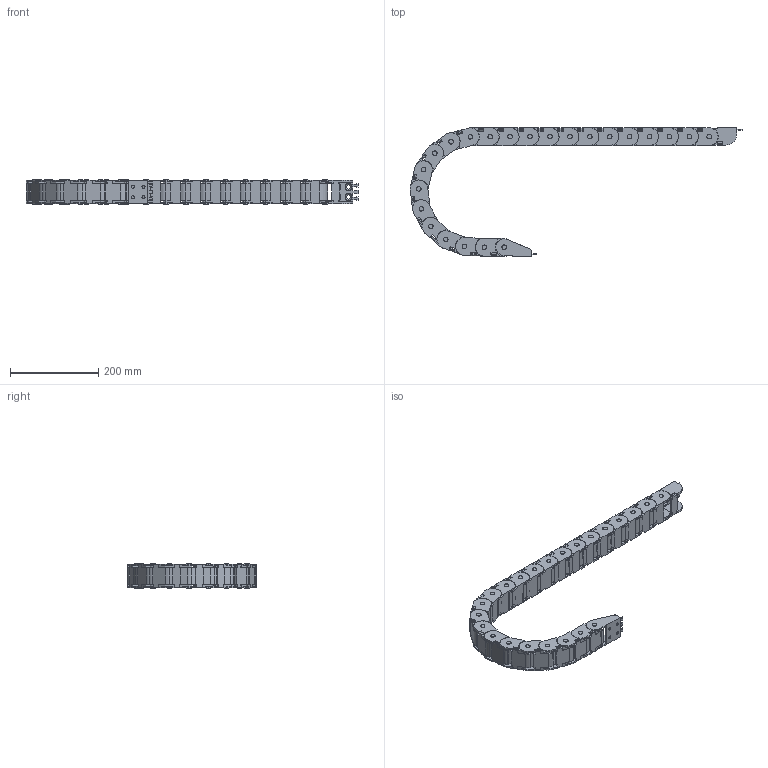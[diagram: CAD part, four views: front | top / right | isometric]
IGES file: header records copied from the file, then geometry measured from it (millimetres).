
Global section: file name: No Iges File Name specified; native system: Autodesk Inventor 2012; preprocessor: AutoDesk Inventor Iges Exporter R2012; author: cho; date: 20151023.003022; units: millimetre
Bounding box: 750.37 x 290.02 x 54.8 mm (x, y, z)
Volume: 825868.3 mm3; surface area: 525835.9 mm2
Topology: 46 solids, 46 shells, 2224 faces, 6202 edges, 4114 vertices
Faces by surface type: plane 1542, cylinder 434, revolution 248
Full cylindrical faces by diameter (mm): 10 x44, 10.5 x2
